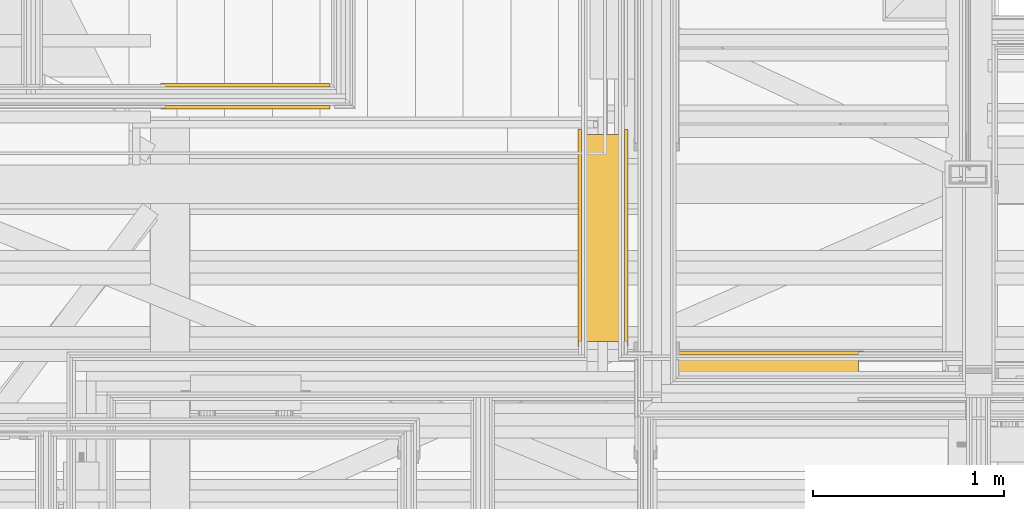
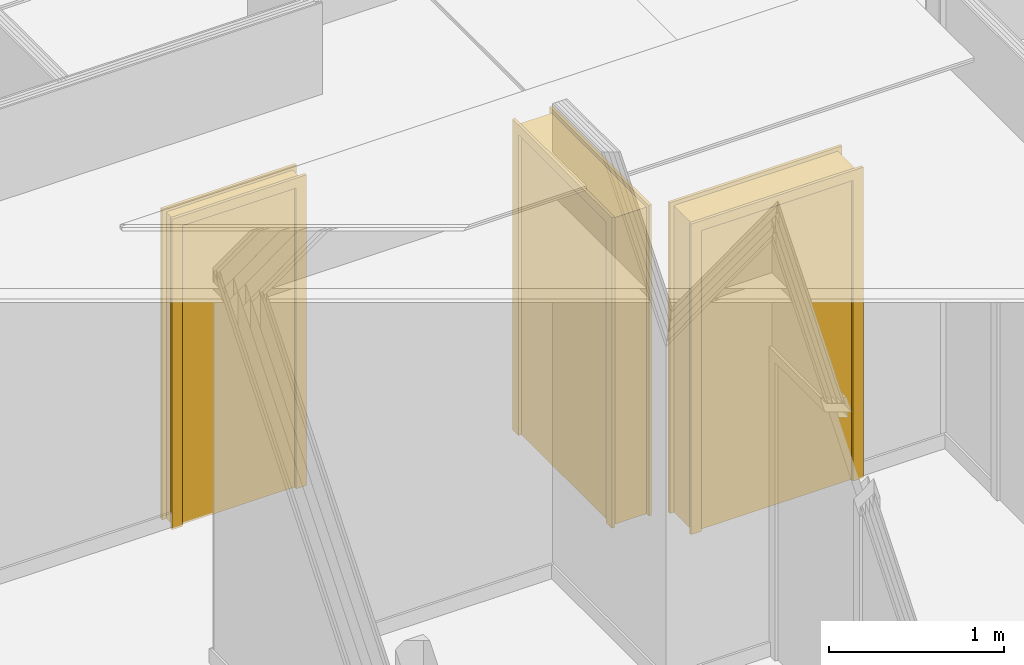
# One storey, part 113 of 183: 3 doors.
"""IFC2X3 building model written with IfcOpenShell, lengths in metres."""

from ifc_helpers import new_model, entity, si_unit, converted_unit, derived_unit, money_unit, direction, frame, origin_with_axes, place, context, subcontext, project, spatial, faceted_brep, material, type_object, element, save


model = new_model("IFC2X3")

# Units and contexts
model_context = context("Model", 3, precision=1e-05, world=origin_with_axes(), true_north=direction((0.0, 1.0)))
body_context = subcontext(model_context, "Body", "Model", "MODEL_VIEW", scale=1.0)
ifc_project = project(units=[si_unit("LENGTHUNIT", "METRE"), si_unit("AREAUNIT", "SQUARE_METRE"), si_unit("VOLUMEUNIT", "CUBIC_METRE"), si_unit("ABSORBEDDOSEUNIT", "GRAY"), si_unit("AMOUNTOFSUBSTANCEUNIT", "MOLE"), si_unit("DOSEEQUIVALENTUNIT", "SIEVERT"), si_unit("ELECTRICCAPACITANCEUNIT", "FARAD"), si_unit("ELECTRICCHARGEUNIT", "COULOMB"), si_unit("ELECTRICCONDUCTANCEUNIT", "SIEMENS"), si_unit("ELECTRICCURRENTUNIT", "AMPERE"), si_unit("ELECTRICRESISTANCEUNIT", "OHM"), si_unit("ELECTRICVOLTAGEUNIT", "VOLT"), si_unit("ENERGYUNIT", "JOULE"), si_unit("FORCEUNIT", "NEWTON"), si_unit("FREQUENCYUNIT", "HERTZ"), si_unit("ILLUMINANCEUNIT", "LUX"), si_unit("INDUCTANCEUNIT", "HENRY"), si_unit("LUMINOUSFLUXUNIT", "LUMEN"), si_unit("LUMINOUSINTENSITYUNIT", "CANDELA"), si_unit("MAGNETICFLUXDENSITYUNIT", "TESLA"), si_unit("MAGNETICFLUXUNIT", "WEBER"), si_unit("MASSUNIT", "GRAM"), converted_unit("PLANEANGLEUNIT", "degree", entity("IfcReal", 0.0174532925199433), si_unit("PLANEANGLEUNIT", "RADIAN"), dimensions=[0, 0, 0, 0, 0, 0, 0]), si_unit("POWERUNIT", "WATT"), si_unit("PRESSUREUNIT", "PASCAL"), si_unit("RADIOACTIVITYUNIT", "BECQUEREL"), si_unit("SOLIDANGLEUNIT", "STERADIAN"), si_unit("THERMODYNAMICTEMPERATUREUNIT", "KELVIN"), si_unit("TIMEUNIT", "SECOND"), derived_unit("ACCELERATIONUNIT", [(si_unit("LENGTHUNIT", "METRE"), 1), (si_unit("TIMEUNIT", "SECOND"), -2)]), derived_unit("ANGULARVELOCITYUNIT", [(converted_unit("PLANEANGLEUNIT", "degree", entity("IfcReal", 0.0174532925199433), si_unit("PLANEANGLEUNIT", "RADIAN"), dimensions=[0, 0, 0, 0, 0, 0, 0]), 1), (si_unit("TIMEUNIT", "SECOND"), -1)]), derived_unit("CURVATUREUNIT", [(converted_unit("PLANEANGLEUNIT", "degree", entity("IfcReal", 0.0174532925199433), si_unit("PLANEANGLEUNIT", "RADIAN"), dimensions=[0, 0, 0, 0, 0, 0, 0]), 1), (si_unit("LENGTHUNIT", "METRE"), -1)]), derived_unit("DYNAMICVISCOSITYUNIT", [(si_unit("PRESSUREUNIT", "PASCAL"), 1), (si_unit("TIMEUNIT", "SECOND"), 1)]), derived_unit("HEATFLUXDENSITYUNIT", [(si_unit("POWERUNIT", "WATT"), 1), (si_unit("LENGTHUNIT", "METRE"), -2)]), derived_unit("HEATINGVALUEUNIT", [(si_unit("ENERGYUNIT", "JOULE"), 1), (si_unit("MASSUNIT", "GRAM"), -1)]), derived_unit("INTEGERCOUNTRATEUNIT", [(si_unit("TIMEUNIT", "SECOND"), -1)]), derived_unit("IONCONCENTRATIONUNIT", [(si_unit("MASSUNIT", "GRAM"), 1), (si_unit("VOLUMEUNIT", "CUBIC_METRE"), -1)]), derived_unit("ISOTHERMALMOISTURECAPACITYUNIT", [(si_unit("VOLUMEUNIT", "CUBIC_METRE"), 1), (si_unit("MASSUNIT", "GRAM"), -1)]), derived_unit("KINEMATICVISCOSITYUNIT", [(si_unit("AREAUNIT", "SQUARE_METRE"), 1), (si_unit("TIMEUNIT", "SECOND"), -1)]), derived_unit("LINEARFORCEUNIT", [(si_unit("FORCEUNIT", "NEWTON"), 1), (si_unit("LENGTHUNIT", "METRE"), -1)]), derived_unit("LINEARMOMENTUNIT", [(si_unit("FORCEUNIT", "NEWTON"), 1), (si_unit("LENGTHUNIT", "METRE"), -1)]), derived_unit("LINEARSTIFFNESSUNIT", [(si_unit("FORCEUNIT", "NEWTON"), 1), (si_unit("LENGTHUNIT", "METRE"), -1)]), derived_unit("LINEARVELOCITYUNIT", [(si_unit("LENGTHUNIT", "METRE"), 1), (si_unit("TIMEUNIT", "SECOND"), -1)]), derived_unit("LUMINOUSINTENSITYDISTRIBUTIONUNIT", [(si_unit("LUMINOUSINTENSITYUNIT", "CANDELA"), 1), (si_unit("LUMINOUSFLUXUNIT", "LUMEN"), -1)]), derived_unit("MASSDENSITYUNIT", [(si_unit("MASSUNIT", "GRAM"), 1), (si_unit("VOLUMEUNIT", "CUBIC_METRE"), -1)]), derived_unit("MASSFLOWRATEUNIT", [(si_unit("MASSUNIT", "GRAM"), 1), (si_unit("TIMEUNIT", "SECOND"), -1)]), derived_unit("MASSPERLENGTHUNIT", [(si_unit("MASSUNIT", "GRAM"), 1), (si_unit("LENGTHUNIT", "METRE"), -1)]), derived_unit("MODULUSOFELASTICITYUNIT", [(si_unit("FORCEUNIT", "NEWTON"), 1), (si_unit("AREAUNIT", "SQUARE_METRE"), -1)]), derived_unit("MODULUSOFLINEARSUBGRADEREACTIONUNIT", [(si_unit("FORCEUNIT", "NEWTON"), 1), (si_unit("LENGTHUNIT", "METRE"), -2)]), derived_unit("MODULUSOFROTATIONALSUBGRADEREACTIONUNIT", [(si_unit("FORCEUNIT", "NEWTON"), 1), (si_unit("LENGTHUNIT", "METRE"), 1)]), derived_unit("MODULUSOFSUBGRADEREACTIONUNIT", [(si_unit("FORCEUNIT", "NEWTON"), 1), (si_unit("VOLUMEUNIT", "CUBIC_METRE"), -1)]), derived_unit("MOISTUREDIFFUSIVITYUNIT", [(si_unit("VOLUMEUNIT", "CUBIC_METRE"), 1), (si_unit("TIMEUNIT", "SECOND"), -1)]), derived_unit("MOLECULARWEIGHTUNIT", [(si_unit("MASSUNIT", "GRAM"), 1), (si_unit("AMOUNTOFSUBSTANCEUNIT", "MOLE"), -1)]), derived_unit("PLANARFORCEUNIT", [(si_unit("FORCEUNIT", "NEWTON"), 1), (si_unit("LENGTHUNIT", "METRE"), -2)]), derived_unit("ROTATIONALFREQUENCYUNIT", [(si_unit("TIMEUNIT", "SECOND"), -1)]), derived_unit("ROTATIONALMASSUNIT", [(si_unit("MASSUNIT", "GRAM"), 1), (si_unit("LENGTHUNIT", "METRE"), 2)]), derived_unit("ROTATIONALSTIFFNESSUNIT", [(si_unit("FORCEUNIT", "NEWTON"), 1), (si_unit("LENGTHUNIT", "METRE"), 1), (converted_unit("PLANEANGLEUNIT", "degree", entity("IfcReal", 0.0174532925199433), si_unit("PLANEANGLEUNIT", "RADIAN"), dimensions=[0, 0, 0, 0, 0, 0, 0]), -1)]), derived_unit("SECTIONAREAINTEGRALUNIT", [(si_unit("LENGTHUNIT", "METRE"), 5)]), derived_unit("SECTIONMODULUSUNIT", [(si_unit("LENGTHUNIT", "METRE"), 3)]), derived_unit("SHEARMODULUSUNIT", [(si_unit("FORCEUNIT", "NEWTON"), 1), (si_unit("AREAUNIT", "SQUARE_METRE"), -1)]), derived_unit("SOUNDPOWERUNIT", [(si_unit("ENERGYUNIT", "JOULE"), 1), (si_unit("TIMEUNIT", "SECOND"), -1)]), derived_unit("SPECIFICHEATCAPACITYUNIT", [(si_unit("FORCEUNIT", "NEWTON"), 1), (si_unit("MASSUNIT", "GRAM"), -1), (si_unit("THERMODYNAMICTEMPERATUREUNIT", "KELVIN"), -1)]), derived_unit("TEMPERATUREGRADIENTUNIT", [(si_unit("THERMODYNAMICTEMPERATUREUNIT", "KELVIN"), 1), (si_unit("LENGTHUNIT", "METRE"), -1)]), derived_unit("THERMALADMITTANCEUNIT", [(si_unit("POWERUNIT", "WATT"), 1), (si_unit("AREAUNIT", "SQUARE_METRE"), -1), (si_unit("THERMODYNAMICTEMPERATUREUNIT", "KELVIN"), -1)]), derived_unit("THERMALCONDUCTANCEUNIT", [(si_unit("POWERUNIT", "WATT"), 1), (si_unit("LENGTHUNIT", "METRE"), -1), (si_unit("THERMODYNAMICTEMPERATUREUNIT", "KELVIN"), -1)]), derived_unit("THERMALEXPANSIONCOEFFICIENTUNIT", [(si_unit("THERMODYNAMICTEMPERATUREUNIT", "KELVIN"), -1)]), derived_unit("THERMALRESISTANCEUNIT", [(si_unit("AREAUNIT", "SQUARE_METRE"), 1), (si_unit("POWERUNIT", "WATT"), -1)]), derived_unit("THERMALTRANSMITTANCEUNIT", [(si_unit("POWERUNIT", "WATT"), 1), (si_unit("AREAUNIT", "SQUARE_METRE"), -1), (si_unit("THERMODYNAMICTEMPERATUREUNIT", "KELVIN"), -1)]), derived_unit("TORQUEUNIT", [(si_unit("FORCEUNIT", "NEWTON"), 1), (si_unit("LENGTHUNIT", "METRE"), 1)]), derived_unit("VAPORPERMEABILITYUNIT", [(si_unit("MASSUNIT", "GRAM"), 1), (si_unit("TIMEUNIT", "SECOND"), -1)]), derived_unit("VOLUMETRICFLOWRATEUNIT", [(si_unit("VOLUMEUNIT", "CUBIC_METRE"), 1), (si_unit("TIMEUNIT", "SECOND"), -1)]), derived_unit("WARPINGCONSTANTUNIT", [(si_unit("LENGTHUNIT", "METRE"), 6)]), derived_unit("WARPINGMOMENTUNIT", [(si_unit("FORCEUNIT", "NEWTON"), 1), (si_unit("LENGTHUNIT", "METRE"), 2)]), money_unit("GBP")], contexts=[model_context])

# Site, building, storey, space
site_placement = place(None, origin_with_axes())
site = spatial("IfcSite", under=ifc_project, at=site_placement, Name="Site", CompositionType="ELEMENT")
building_placement = place(site_placement, origin_with_axes())
building = spatial("IfcBuilding", under=site, at=building_placement, Name="Building01", CompositionType="ELEMENT")
storey_placement = place(building_placement, frame((0.0, 0.0, 5.15), z_axis=(0.0, 0.0, 1.0), x_axis=(1.0, 0.0, 0.0)))
storey = spatial("IfcBuildingStorey", under=building, at=storey_placement, Name="1F", CompositionType="ELEMENT", Elevation=5.15)
space_1_placement = place(storey_placement, frame((12.15, 4.98, 0.017975), z_axis=(0.0, 0.0, 1.0), x_axis=(-1.0, 0.0, 0.0)))
space_1 = spatial("IfcSpace", under=storey, at=space_1_placement, Name="05", CompositionType="ELEMENT", InteriorOrExteriorSpace="NOTDEFINED")

# Door
ifc_material = material(Name="A_BSUK_Doors")
door_style_1 = type_object("IfcDoorStyle", Name="A-Doors-SingleFlush", ConstructionType="USERDEFINED", OperationType="SINGLE_SWING_RIGHT", ParameterTakesPrecedence=False, Sizeable=False)
door_1_placement = place(storey_placement, frame((8.4725, 4.98, 0.004), z_axis=(0.0, 0.0, 1.0), x_axis=(-1.0, 0.0, 0.0)))
element("IfcDoor", 1, at=door_1_placement, inside=space_1, type_object=door_style_1, material=ifc_material, Name="1.27", ObjectType="A-Doors-SingleFlush", OverallHeight=2.16900000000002, OverallWidth=1.13800000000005, context=body_context, shape_type="Brep", body=[
    faceted_brep([(1.0, -0.244, 0.0), (1.069, -0.244, 0.0), (1.069, -0.244, 2.169), (-0.069, -0.244, 2.169), (-0.069, -0.244, 0.0), (0.0, -0.244, 0.0), (0.0, -0.244, 2.1), (1.0, -0.244, 2.1), (-0.069, -0.225, 0.0), (-0.069, -0.225, 2.169), (1.069, -0.225, 2.169), (1.069, -0.225, 0.0), (1.0, 0.019, 0.0), (1.069, 0.019, 0.0), (1.069, 0.0, 0.0), (1.042, 0.0, 0.0), (1.042, -0.225, 0.0), (1.0, 0.019, 2.1), (0.0, 0.019, 2.1), (0.0, 0.019, 0.0), (-0.069, 0.019, 0.0), (-0.069, 0.019, 2.169), (1.069, 0.019, 2.169), (1.069, 0.0, 2.169), (1.042, -0.225, 2.142), (1.042, 0.0, 2.142), (-0.042, -0.225, 2.142), (-0.042, 0.0, 2.142), (-0.042, -0.225, 0.0), (-0.042, 0.0, 0.0), (-0.069, 0.0, 2.169), (-0.069, 0.0, 0.0)], [[[0, 1, 2, 3, 4, 5, 6, 7]], [[8, 4, 3, 9]], [[10, 2, 1, 11]], [[9, 3, 2, 10]], [[12, 13, 14, 15, 16, 11, 1, 0]], [[7, 17, 12, 0]], [[6, 18, 17, 7]], [[18, 19, 20, 21, 22, 13, 12, 17]], [[5, 19, 18, 6]], [[13, 22, 23, 14]], [[24, 16, 15, 25]], [[26, 24, 25, 27]], [[11, 16, 24, 26, 28, 8, 9, 10]], [[27, 29, 28, 26]], [[25, 15, 14, 23, 30, 31, 29, 27]], [[5, 4, 8, 28, 29, 31, 20, 19]], [[30, 21, 20, 31]], [[23, 22, 21, 30]]]),
    faceted_brep([(0.0, -0.09, 2.1), (0.0, -0.04, 2.1), (0.0, -0.04, 0.0), (0.0, -0.09, 0.0), (0.975, -0.09, 0.0), (1.0, -0.09, 0.0), (1.0, -0.09, 2.1), (0.025, -0.09, 0.0), (0.025, -0.09, 2.075), (0.975, -0.09, 2.075), (0.975, -0.04, 0.0), (1.0, -0.04, 0.0), (1.0, -0.04, 2.1), (0.025, -0.04, 2.075), (0.025, -0.04, 0.0), (0.975, -0.04, 2.075)], [[[0, 1, 2, 3]], [[4, 5, 6, 0, 3, 7, 8, 9]], [[10, 11, 5, 4]], [[6, 12, 1, 0]], [[5, 11, 12, 6]], [[13, 14, 2, 1, 12, 11, 10, 15]], [[7, 14, 13, 8]], [[7, 3, 2, 14]], [[9, 15, 10, 4]], [[8, 13, 15, 9]]]),
    faceted_brep([(1.0, -0.04, 0.0), (1.0, 0.0, 0.0), (1.0, 0.0, 2.1), (1.0, -0.04, 2.1), (0.0, -0.04, 2.1), (0.0, 0.0, 2.1), (0.0, 0.0, 0.0), (0.0, -0.04, 0.0)], [[[0, 1, 2, 3]], [[4, 5, 6, 7]], [[7, 6, 1, 0]], [[3, 4, 7, 0]], [[3, 2, 5, 4]], [[1, 6, 5, 2]]]),
])

# Space
space_2_placement = place(storey_placement, frame((0.318, 8.21067, 0.017975), z_axis=(0.0, 0.0, 1.0), x_axis=(0.0, -1.0, 0.0)))
space_2 = spatial("IfcSpace", under=storey, at=space_2_placement, Name="06", CompositionType="ELEMENT", InteriorOrExteriorSpace="NOTDEFINED")

# Doors
door_style_2 = type_object("IfcDoorStyle", Name="A-Doors-SingleFlush", ConstructionType="USERDEFINED", OperationType="SINGLE_SWING_LEFT", ParameterTakesPrecedence=False, Sizeable=False)
door_2_placement = place(storey_placement, frame((7.064669, 5.316475, 0.0), z_axis=(0.0, 0.0, 1.0), x_axis=(0.0, 1.0, 0.0)))
element("IfcDoor", 2, at=door_2_placement, inside=space_2, type_object=door_style_2, material=ifc_material, Name="1.17", ObjectType="A-Doors-SingleFlush", OverallHeight=2.16900000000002, OverallWidth=1.13800000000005, context=body_context, shape_type="Brep", body=[
    faceted_brep([(0.0, -0.244, 2.1), (1.0, -0.244, 2.1), (1.0, -0.244, 0.0), (1.069, -0.244, 0.0), (1.069, -0.244, 2.169), (-0.069, -0.244, 2.169), (-0.069, -0.244, 0.0), (0.0, -0.244, 0.0), (1.069, -0.225, 2.169), (1.069, -0.225, 0.0), (-0.069, -0.225, 0.0), (-0.069, -0.225, 2.169), (-0.042, -0.225, 0.0), (-0.042, 0.0, 0.0), (-0.069, 0.0, 0.0), (-0.069, 0.019, 0.0), (0.0, 0.019, 0.0), (0.0, 0.019, 2.1), (1.0, 0.019, 2.1), (-0.069, 0.019, 2.169), (1.069, 0.019, 2.169), (1.069, 0.019, 0.0), (1.0, 0.019, 0.0), (-0.069, 0.0, 2.169), (-0.042, 0.0, 2.142), (-0.042, -0.225, 2.142), (1.042, 0.0, 2.142), (1.042, -0.225, 2.142), (1.042, -0.225, 0.0), (1.042, 0.0, 0.0), (1.069, 0.0, 0.0), (1.069, 0.0, 2.169)], [[[0, 1, 2, 3, 4, 5, 6, 7]], [[8, 4, 3, 9]], [[10, 6, 5, 11]], [[11, 5, 4, 8]], [[7, 6, 10, 12, 13, 14, 15, 16]], [[7, 16, 17, 0]], [[0, 17, 18, 1]], [[17, 16, 15, 19, 20, 21, 22, 18]], [[1, 18, 22, 2]], [[14, 23, 19, 15]], [[24, 13, 12, 25]], [[26, 24, 25, 27]], [[11, 8, 9, 28, 27, 25, 12, 10]], [[27, 28, 29, 26]], [[26, 29, 30, 31, 23, 14, 13, 24]], [[22, 21, 30, 29, 28, 9, 3, 2]], [[30, 21, 20, 31]], [[31, 20, 19, 23]]]),
    faceted_brep([(1.0, -0.09, 0.0), (1.0, -0.04, 0.0), (1.0, -0.04, 2.1), (1.0, -0.09, 2.1), (0.025, -0.09, 2.075), (0.975, -0.09, 2.075), (0.975, -0.09, 0.0), (0.0, -0.09, 2.1), (0.0, -0.09, 0.0), (0.025, -0.09, 0.0), (0.0, -0.04, 0.0), (0.025, -0.04, 0.0), (0.0, -0.04, 2.1), (0.025, -0.04, 2.075), (0.975, -0.04, 0.0), (0.975, -0.04, 2.075)], [[[0, 1, 2, 3]], [[4, 5, 6, 0, 3, 7, 8, 9]], [[9, 8, 10, 11]], [[3, 2, 12, 7]], [[7, 12, 10, 8]], [[13, 11, 10, 12, 2, 1, 14, 15]], [[5, 15, 14, 6]], [[14, 1, 0, 6]], [[9, 11, 13, 4]], [[4, 13, 15, 5]]]),
    faceted_brep([(0.0, -0.04, 2.1), (0.0, 0.0, 2.1), (0.0, 0.0, 0.0), (0.0, -0.04, 0.0), (1.0, -0.04, 0.0), (1.0, 0.0, 0.0), (1.0, 0.0, 2.1), (1.0, -0.04, 2.1)], [[[0, 1, 2, 3]], [[4, 5, 6, 7]], [[3, 2, 5, 4]], [[3, 4, 7, 0]], [[7, 6, 1, 0]], [[1, 6, 5, 2]]]),
])
door_style_3 = type_object("IfcDoorStyle", Name="A-Doors-SingleFlush", ConstructionType="USERDEFINED", OperationType="SINGLE_SWING_LEFT", ParameterTakesPrecedence=False, Sizeable=False)
door_3_placement = place(storey_placement, frame((5.679088, 6.511475, 0.0), z_axis=(0.0, 0.0, 1.0), x_axis=(-1.0, 0.0, 0.0)))
element("IfcDoor", 3, at=door_3_placement, inside=space_2, type_object=door_style_3, material=ifc_material, Name="1.18", ObjectType="A-Doors-SingleFlush", OverallHeight=2.16900000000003, OverallWidth=0.888000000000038, context=body_context, shape_type="Brep", body=[
    faceted_brep([(0.0, -0.114, 2.1), (0.75, -0.114, 2.1), (0.75, -0.114, 0.0), (0.819, -0.114, 0.0), (0.819, -0.114, 2.169), (-0.069, -0.114, 2.169), (-0.069, -0.114, 0.0), (0.0, -0.114, 0.0), (0.819, -0.095, 2.169), (0.819, -0.095, 0.0), (-0.069, -0.095, 0.0), (-0.069, -0.095, 2.169), (-0.042, -0.095, 0.0), (-0.042, 0.0, 0.0), (-0.069, 0.0, 0.0), (-0.069, 0.019, 0.0), (0.0, 0.019, 0.0), (0.0, 0.019, 2.1), (0.75, 0.019, 2.1), (-0.069, 0.019, 2.169), (0.819, 0.019, 2.169), (0.819, 0.019, 0.0), (0.75, 0.019, 0.0), (-0.069, 0.0, 2.169), (-0.042, 0.0, 2.142), (-0.042, -0.095, 2.142), (0.792, 0.0, 2.142), (0.792, -0.095, 2.142), (0.792, -0.095, 0.0), (0.792, 0.0, 0.0), (0.819, 0.0, 0.0), (0.819, 0.0, 2.169)], [[[0, 1, 2, 3, 4, 5, 6, 7]], [[8, 4, 3, 9]], [[10, 6, 5, 11]], [[11, 5, 4, 8]], [[7, 6, 10, 12, 13, 14, 15, 16]], [[7, 16, 17, 0]], [[0, 17, 18, 1]], [[17, 16, 15, 19, 20, 21, 22, 18]], [[1, 18, 22, 2]], [[14, 23, 19, 15]], [[24, 13, 12, 25]], [[26, 24, 25, 27]], [[11, 8, 9, 28, 27, 25, 12, 10]], [[27, 28, 29, 26]], [[26, 29, 30, 31, 23, 14, 13, 24]], [[22, 21, 30, 29, 28, 9, 3, 2]], [[30, 21, 20, 31]], [[31, 20, 19, 23]]]),
    faceted_brep([(0.75, -0.09, 0.0), (0.75, -0.04, 0.0), (0.75, -0.04, 2.1), (0.75, -0.09, 2.1), (0.025, -0.09, 2.075), (0.725, -0.09, 2.075), (0.725, -0.09, 0.0), (0.0, -0.09, 2.1), (0.0, -0.09, 0.0), (0.025, -0.09, 0.0), (0.0, -0.04, 0.0), (0.025, -0.04, 0.0), (0.0, -0.04, 2.1), (0.025, -0.04, 2.075), (0.725, -0.04, 0.0), (0.725, -0.04, 2.075)], [[[0, 1, 2, 3]], [[4, 5, 6, 0, 3, 7, 8, 9]], [[9, 8, 10, 11]], [[3, 2, 12, 7]], [[7, 12, 10, 8]], [[13, 11, 10, 12, 2, 1, 14, 15]], [[5, 15, 14, 6]], [[14, 1, 0, 6]], [[9, 11, 13, 4]], [[4, 13, 15, 5]]]),
    faceted_brep([(0.0, -0.04, 2.1), (0.0, 0.0, 2.1), (0.0, 0.0, 0.0), (0.0, -0.04, 0.0), (0.75, -0.04, 0.0), (0.75, 0.0, 0.0), (0.75, 0.0, 2.1), (0.75, -0.04, 2.1)], [[[0, 1, 2, 3]], [[4, 5, 6, 7]], [[3, 2, 5, 4]], [[3, 4, 7, 0]], [[7, 6, 1, 0]], [[1, 6, 5, 2]]]),
])

save(model, "model.ifc")
